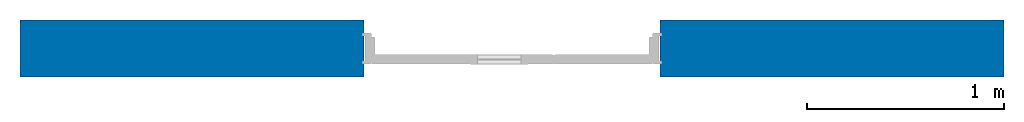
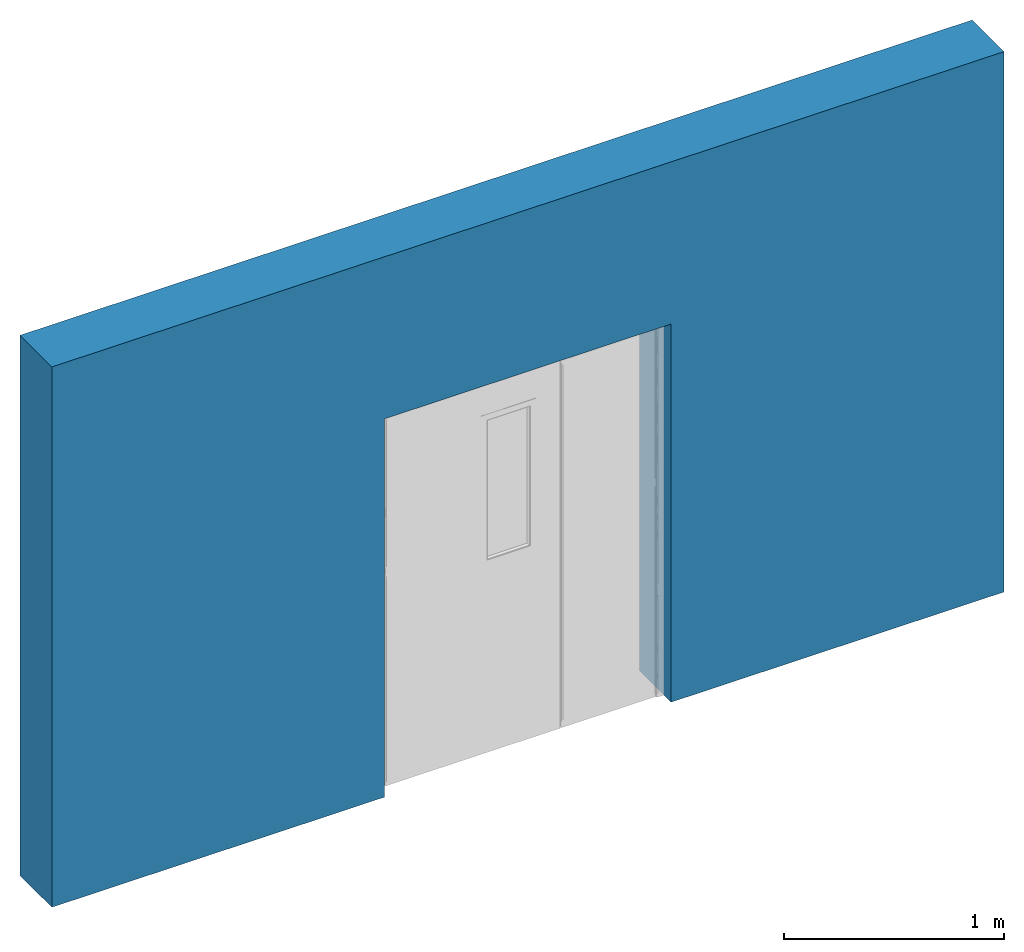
# One storey, incomplete: 1 wall, 1 opening.
"""IFC2X3 building model written with IfcOpenShell, lengths in millimetres."""

from ifc_helpers import new_model, entity, si_unit, converted_unit, derived_unit, direction, frame, frame_2d, origin, place, context, subcontext, project, spatial, rectangle, extrude, material, layer, layer_set, layer_usage, type_object, element, save


model = new_model("IFC2X3")

# Units and contexts
model_context = context("Model", 3, precision=0.01, world=origin(), true_north=direction((6.12303176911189e-17, 1.0)))
body_context = subcontext(model_context, "Body", "Model", "MODEL_VIEW")
ifc_project = project(units=[si_unit("LENGTHUNIT", "METRE", prefix="MILLI"), si_unit("AREAUNIT", "SQUARE_METRE"), si_unit("VOLUMEUNIT", "CUBIC_METRE"), converted_unit("PLANEANGLEUNIT", "DEGREE", entity("IfcRatioMeasure", 0.0174532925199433), si_unit("PLANEANGLEUNIT", "RADIAN"), dimensions=[0, 0, 0, 0, 0, 0, 0]), si_unit("MASSUNIT", "GRAM", prefix="KILO"), si_unit("TIMEUNIT", "SECOND"), si_unit("FREQUENCYUNIT", "HERTZ"), si_unit("THERMODYNAMICTEMPERATUREUNIT", "DEGREE_CELSIUS"), derived_unit("THERMALTRANSMITTANCEUNIT", [(si_unit("MASSUNIT", "GRAM", prefix="KILO"), 1), (si_unit("THERMODYNAMICTEMPERATUREUNIT", "KELVIN"), -1), (si_unit("TIMEUNIT", "SECOND"), -3)]), derived_unit("VOLUMETRICFLOWRATEUNIT", [(si_unit("LENGTHUNIT", "METRE"), 3), (si_unit("TIMEUNIT", "SECOND"), -1)]), si_unit("ELECTRICCURRENTUNIT", "AMPERE"), si_unit("ELECTRICVOLTAGEUNIT", "VOLT"), si_unit("POWERUNIT", "WATT"), si_unit("FORCEUNIT", "NEWTON", prefix="KILO"), si_unit("ILLUMINANCEUNIT", "LUX"), si_unit("LUMINOUSFLUXUNIT", "LUMEN"), si_unit("LUMINOUSINTENSITYUNIT", "CANDELA"), si_unit("PRESSUREUNIT", "PASCAL")], contexts=[model_context])

# Site, building, storey
site_placement = place(None, origin())
site = spatial("IfcSite", under=ifc_project, at=site_placement, Name="Default", CompositionType="ELEMENT")
building_placement = place(site_placement, origin())
building = spatial("IfcBuilding", under=site, at=building_placement, CompositionType="ELEMENT")
storey_placement = place(building_placement, origin())
storey = spatial("IfcBuildingStorey", under=building, at=storey_placement, Name="Level 0", CompositionType="ELEMENT", Elevation=0.0)

# Wall, opening
ifc_material_1 = material(Name="Brick, Common")
ifc_layer_1 = layer(ifc_material_1, 102.5)
ifc_material_2 = material(Name="Fiberglass Batt")
ifc_layer_2 = layer(ifc_material_2, 75.0)
ifc_material_3 = material(Name="Concrete Masonry Units")
ifc_layer_3 = layer(ifc_material_3, 100.0)
ifc_material_4 = material(Name="Gypsum Wall Board")
ifc_layer_4 = layer(ifc_material_4, 12.5)
ifc_layer_set = layer_set([ifc_layer_1, ifc_layer_2, ifc_layer_3, ifc_layer_4], Name="Basic Wall:Cav - 102 75i 100 p - Lwt")
ifc_layer_usage = layer_usage(ifc_layer_set, "AXIS2", "POSITIVE", -145.0)
wall_type = type_object("IfcWallType", Name="Basic Wall:Cav - 102 75i 100 p - Lwt", PredefinedType="STANDARD", material=ifc_layer_set)
wall_placement = place(storey_placement, frame((-2504.9500028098, -2.69454281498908, 0.0)))
wall = element("IfcWallStandardCase", 1, at=wall_placement, inside=storey, type_object=wall_type, material=ifc_layer_usage, Name="Basic Wall:Cav - 102 75i 100 p - Lwt", ObjectType="Basic Wall:Cav - 102 75i 100 p - Lwt", context=body_context, shape_type="SweptSolid", body=[
    extrude(rectangle(XDim=5000.0, YDim=290.0, at=frame_2d((2500.0, 0.0), x_axis=(-1.0, 0.0))), origin(), (0.0, 0.0, 1.0), 3000.0),
])
opening_placement = place(wall_placement, frame((2504.9500028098, 2.69454281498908, 0.0)))
element("IfcOpeningElement", 2, at=opening_placement, cuts=wall, Name="Basic Wall:Cav - 102 75i 100 p - Lwt", ObjectType="Opening", context=body_context, shape_type="SweptSolid", body=[
    extrude(rectangle(XDim=2099.99999999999, YDim=1503.99999999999, at=frame_2d((0.0, -1.13686837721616e-13), x_axis=(0.0, 1.0))), frame((-4.95000280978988, -152.694542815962, 1050.0), z_axis=(0.0, 1.0, 0.0), x_axis=(1.0, 0.0, 0.0)), (0.0, 0.0, 1.0), 300.000000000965),
])

save(model, "model.ifc")
